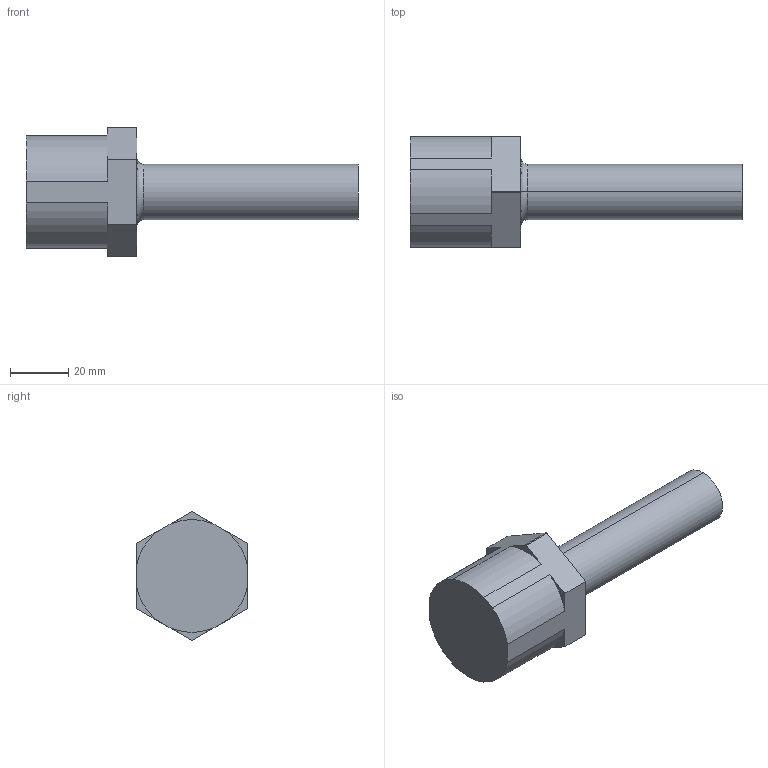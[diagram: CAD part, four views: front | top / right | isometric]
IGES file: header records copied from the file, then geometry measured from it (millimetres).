
Start section: SolidWorks IGES file using analytic representation for surfaces
Global section: file name: S:\Product Visuals\Pumps to be Defeatured\140 fittings\FITTING ASSEMBLIES\DEFEATURED\12-tube-out.IGS; native system: SolidWorks 2012; preprocessor: SolidWorks 2012; author: rachel.dressel; date: 121203.121119; units: inch
Bounding box: 114.3 x 38.05 x 44.2 mm (x, y, z)
Volume: 51127.8 mm3; surface area: 15945.1 mm2
Topology: 1 solids, 1 shells, 32 faces, 82 edges, 54 vertices
Faces by surface type: revolution 16, plane 16
